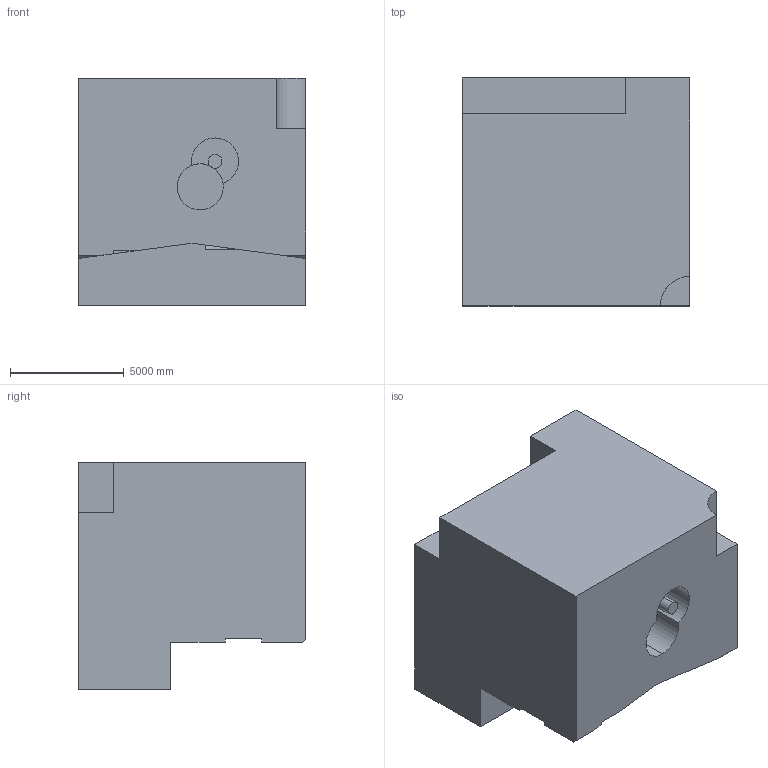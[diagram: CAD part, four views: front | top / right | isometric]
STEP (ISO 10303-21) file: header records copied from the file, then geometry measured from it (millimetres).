
FILE_DESCRIPTION (( 'STEP AP203' ), '1' );
FILE_NAME ('869.STEP', '2022-07-29T13:51:37', ( 'user' ), ( '' ), 'SwSTEP 2.0', 'SolidWorks 2021', '' );
FILE_SCHEMA (( 'CONFIG_CONTROL_DESIGN' ));
Length unit declared in the file: centimetre
Products named in the file (1): 869
Bounding box: 10000 x 10000 x 10000 mm (x, y, z)
Volume: 794681857249.9 mm3; surface area: 652316893.2 mm2
Topology: 1 solids, 1 shells, 40 faces, 111 edges, 74 vertices
Faces by surface type: plane 29, cylinder 11
Entity records: 1363 total; most frequent: CARTESIAN_POINT 229, ORIENTED_EDGE 222, DIRECTION 219, EDGE_CURVE 111, VECTOR 83, LINE 83, VERTEX_POINT 74, AXIS2_PLACEMENT_3D 68
